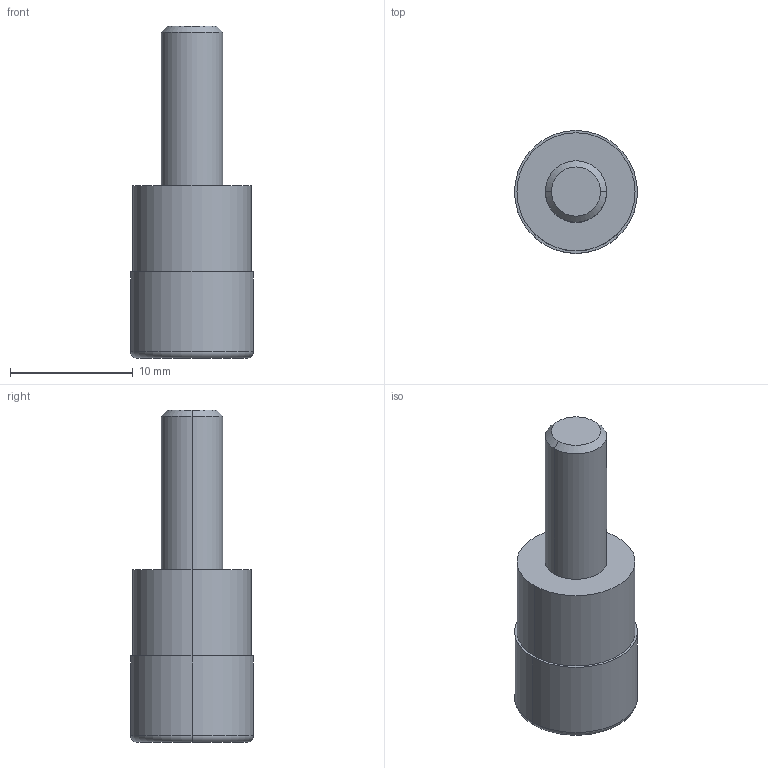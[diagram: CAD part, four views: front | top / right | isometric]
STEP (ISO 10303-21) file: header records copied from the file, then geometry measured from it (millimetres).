
FILE_DESCRIPTION (( 'STEP AP214' ), '1' );
FILE_NAME ('38.313.100_3D-model.step', '2022-02-15T20:41:06', ( '' ), ( '' ), 'SwSTEP 2.0', 'SolidWorks 2020', '' );
FILE_SCHEMA (( 'AUTOMOTIVE_DESIGN' ));
Length unit declared in the file: millimetre
Products named in the file (3): NOCUT-3D^Baugr123; CUT-3D^Baugr123; 38.313.100_3D-model
Assembly tree (2 placements, depth 2):
  38.313.100_3D-model
    CUT-3D^Baugr123
    NOCUT-3D^Baugr123
Bounding box: 10 x 10 x 27 mm (x, y, z)
Volume: 1308.2 mm3; surface area: 925.3 mm2
Topology: 2 solids, 2 shells, 15 faces, 26 edges, 16 vertices
Faces by surface type: cylinder 6, plane 5, torus 2, cone 2
Entity records: 488 total; most frequent: DIRECTION 90, CARTESIAN_POINT 65, ORIENTED_EDGE 52, AXIS2_PLACEMENT_3D 41, EDGE_CURVE 26, CIRCLE 18, EDGE_LOOP 16, VERTEX_POINT 16
